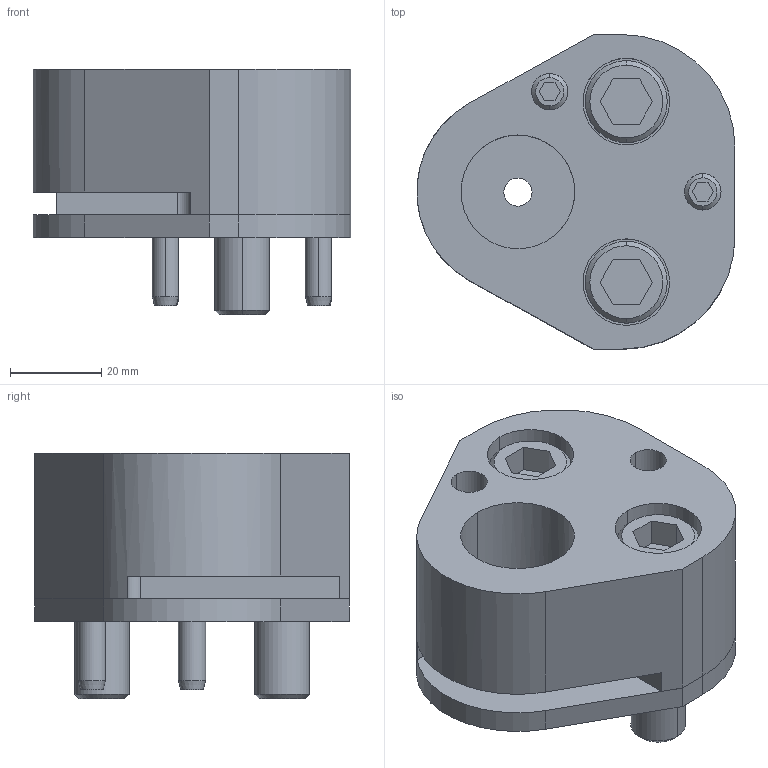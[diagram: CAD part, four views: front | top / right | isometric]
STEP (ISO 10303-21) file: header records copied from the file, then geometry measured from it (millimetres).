
FILE_DESCRIPTION(/* description */ (''),/* implementation_level */ '2;1');
FILE_NAME(/* name */ '3d_crn-fp25_03654_r00.stp',/* time_stamp */ '2011-01-10T14:16:21+09:00',/* author */ ('MISUMI'),/* organization */ (''),/* preprocessor_version */ 'ST-DEVELOPER v11',/* originating_system */ 'UGS - NX 5.0',/* authorisation */ '');
FILE_SCHEMA (('CONFIG_CONTROL_DESIGN'));
Length unit declared in the file: millimetre
Products named in the file (1): 3d_crn-fp25_03654_r00
Bounding box: 69.86 x 69.1 x 54 mm (x, y, z)
Volume: 115513.2 mm3; surface area: 35663.6 mm2
Topology: 8 solids, 8 shells, 156 faces, 359 edges, 232 vertices
Faces by surface type: plane 69, cylinder 61, cone 26
Entity records: 4592 total; most frequent: DIRECTION 816, CARTESIAN_POINT 805, ORIENTED_EDGE 718, EDGE_CURVE 359, AXIS2_PLACEMENT_3D 307, VERTEX_POINT 232, LINE 202, VECTOR 202
